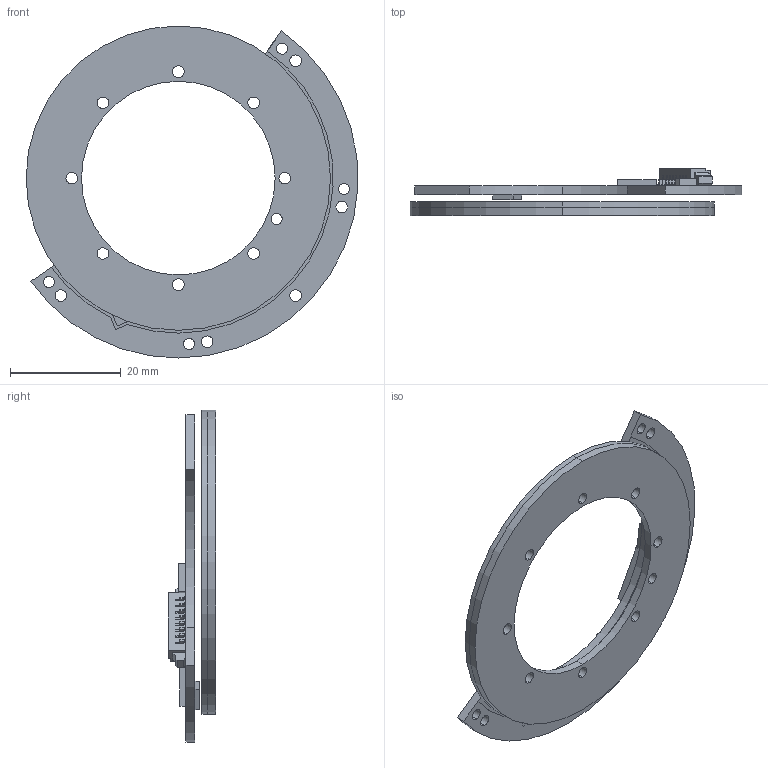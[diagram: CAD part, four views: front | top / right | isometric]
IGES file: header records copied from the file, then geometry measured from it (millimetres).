
Start section: SolidWorks IGES file using analytic representation for surfaces
Global section: file name: C:\Users\Administrator\Desktop\埻唳蜊\35H\eCoder_35H.IGS,15; native system: HSolidWorks 2021; preprocessor: SolidWorks 2021; author: ZERO; date: 221228.173322; units: millimetre
Bounding box: 59.96 x 8.6 x 60 mm (x, y, z)
Volume: 4978.9 mm3; surface area: 8844.1 mm2
Topology: 7 solids, 7 shells, 361 faces, 937 edges, 612 vertices
Faces by surface type: plane 299, revolution 62
